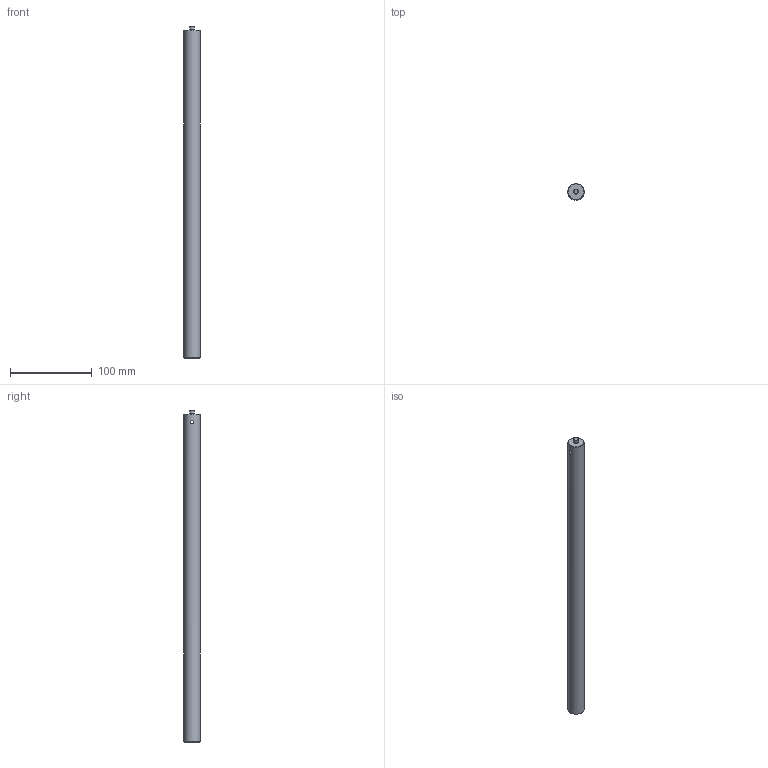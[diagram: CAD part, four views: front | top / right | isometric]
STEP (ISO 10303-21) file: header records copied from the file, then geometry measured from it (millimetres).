
FILE_DESCRIPTION((''),'2;1');
FILE_NAME('S:\1規格品図面ﾃﾞｰﾀ\OpticalHard\01_国内製品\3_Bases\RO\RO-20\RO-20-400\RO-20-400.stp','2007-06-22T11:42:15',('okegawa'),(''),'Autodesk Inventor 11','Autodesk Inventor 11','');
FILE_SCHEMA(('AUTOMOTIVE_DESIGN { 1 0 10303 214 1 1 1 1 }'));
Length unit declared in the file: millimetre
Products named in the file (1): RO-20-400-01-S01
Bounding box: 20 x 20 x 405 mm (x, y, z)
Volume: 125504.4 mm3; surface area: 26029.7 mm2
Topology: 1 solids, 1 shells, 11 faces, 21 edges, 13 vertices
Faces by surface type: cylinder 4, plane 4, cone 3
Full cylindrical faces by diameter (mm): 4 x1, 5 x1, 6 x1, 20 x1
Entity records: 379 total; most frequent: CARTESIAN_POINT 158, DIRECTION 42, ORIENTED_EDGE 26, EDGE_LOOP 22, AXIS2_PLACEMENT_3D 21, VERTEX_POINT 13, EDGE_CURVE 13, FACE_OUTER_BOUND 11
